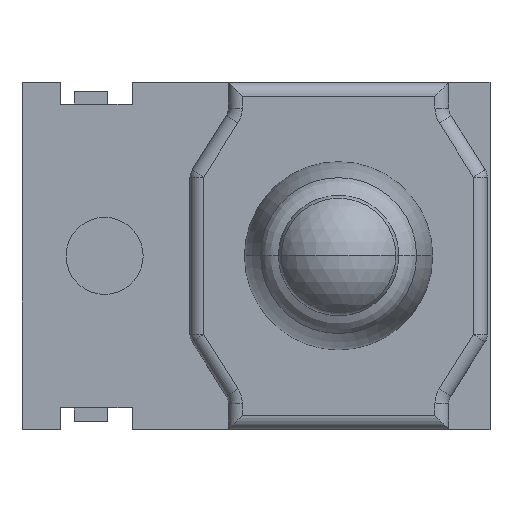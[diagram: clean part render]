
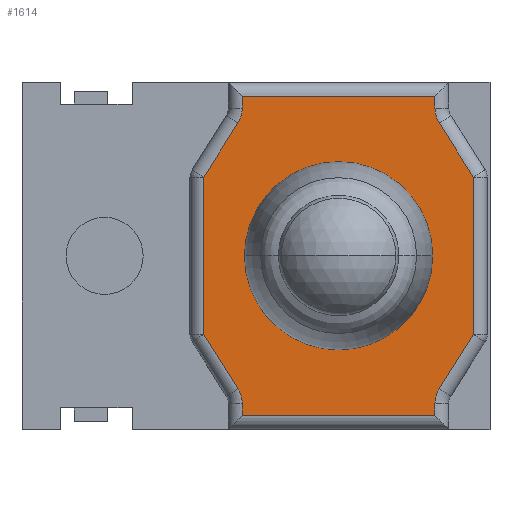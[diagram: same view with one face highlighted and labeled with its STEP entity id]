
A CAD part, top view. The second image highlights one B-rep face of the part: STEP entity #1614.
In plain terms, the highlighted planar face has unit normal (0, 0, 1).
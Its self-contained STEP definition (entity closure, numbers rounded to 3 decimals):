
#51 = EDGE_CURVE ( 'NONE', #718, #4419, #1663, .T. ) ;
#122 = DIRECTION ( 'NONE',  ( 0., 0., 1. ) ) ;
#201 = CARTESIAN_POINT ( 'NONE',  ( -1.75, -2.9, 7.91 ) ) ;
#272 = AXIS2_PLACEMENT_3D ( 'NONE', #3316, #3812, #508 ) ;
#506 = VERTEX_POINT ( 'NONE', #1890 ) ;
#508 = DIRECTION ( 'NONE',  ( 1., 0., 0. ) ) ;
#541 = ORIENTED_EDGE ( 'NONE', *, *, #2234, .T. ) ;
#546 = LINE ( 'NONE', #2814, #2394 ) ;
#548 = EDGE_CURVE ( 'NONE', #5036, #2268, #1927, .T. ) ;
#588 = VERTEX_POINT ( 'NONE', #201 ) ;
#651 = VERTEX_POINT ( 'NONE', #1411 ) ;
#682 = EDGE_CURVE ( 'NONE', #506, #5435, #5939, .T. ) ;
#718 = VERTEX_POINT ( 'NONE', #4206 ) ;
#815 = CARTESIAN_POINT ( 'NONE',  ( 1.75, 2.682, 7.91 ) ) ;
#850 = DIRECTION ( 'NONE',  ( 0., -1., 0. ) ) ;
#864 = DIRECTION ( 'NONE',  ( 0., 1., 0. ) ) ;
#1058 = VECTOR ( 'NONE', #5889, 1000. ) ;
#1125 = VECTOR ( 'NONE', #850, 1000. ) ;
#1161 = ORIENTED_EDGE ( 'NONE', *, *, #4371, .T. ) ;
#1174 = DIRECTION ( 'NONE',  ( 1., 0., 0. ) ) ;
#1193 = VERTEX_POINT ( 'NONE', #3698 ) ;
#1238 = CARTESIAN_POINT ( 'NONE',  ( 2.25, -2.682, 7.91 ) ) ;
#1288 = CARTESIAN_POINT ( 'NONE',  ( 2.45, 1.428, 7.91 ) ) ;
#1358 = CARTESIAN_POINT ( 'NONE',  ( 2.45, 1.428, 7.91 ) ) ;
#1384 = CARTESIAN_POINT ( 'NONE',  ( -1.75, 2.682, 7.91 ) ) ;
#1388 = VERTEX_POINT ( 'NONE', #1288 ) ;
#1411 = CARTESIAN_POINT ( 'NONE',  ( 1.71, 0., 7.91 ) ) ;
#1412 = ORIENTED_EDGE ( 'NONE', *, *, #2430, .T. ) ;
#1423 = VECTOR ( 'NONE', #2018, 1000. ) ;
#1464 = ORIENTED_EDGE ( 'NONE', *, *, #5851, .F. ) ;
#1486 = DIRECTION ( 'NONE',  ( 0.533, 0.846, 0. ) ) ;
#1535 = VERTEX_POINT ( 'NONE', #3276 ) ;
#1542 = FACE_OUTER_BOUND ( 'NONE', #4058, .T. ) ;
#1546 = CARTESIAN_POINT ( 'NONE',  ( 2.45, -1.428, 7.91 ) ) ;
#1614 = ADVANCED_FACE ( 'NONE', ( #1542, #1882 ), #5654, .T. ) ;
#1663 = LINE ( 'NONE', #3117, #4346 ) ;
#1667 = EDGE_CURVE ( 'NONE', #4639, #651, #5572, .T. ) ;
#1882 = FACE_BOUND ( 'NONE', #3194, .T. ) ;
#1890 = CARTESIAN_POINT ( 'NONE',  ( 1.75, 2.682, 7.91 ) ) ;
#1927 = CIRCLE ( 'NONE', #3183, 0.5 ) ;
#1972 = DIRECTION ( 'NONE',  ( 1., 0., 0. ) ) ;
#2015 = ORIENTED_EDGE ( 'NONE', *, *, #3742, .F. ) ;
#2018 = DIRECTION ( 'NONE',  ( 0.533, -0.846, 0. ) ) ;
#2026 = ORIENTED_EDGE ( 'NONE', *, *, #3349, .T. ) ;
#2027 = CARTESIAN_POINT ( 'NONE',  ( 0., 0., 7.91 ) ) ;
#2103 = CIRCLE ( 'NONE', #272, 1.71 ) ;
#2176 = EDGE_CURVE ( 'NONE', #651, #4639, #2103, .T. ) ;
#2234 = EDGE_CURVE ( 'NONE', #588, #5429, #3683, .T. ) ;
#2268 = VERTEX_POINT ( 'NONE', #1384 ) ;
#2321 = ORIENTED_EDGE ( 'NONE', *, *, #51, .T. ) ;
#2344 = ORIENTED_EDGE ( 'NONE', *, *, #2679, .T. ) ;
#2394 = VECTOR ( 'NONE', #4214, 1000. ) ;
#2403 = EDGE_CURVE ( 'NONE', #3765, #1535, #5721, .T. ) ;
#2423 = DIRECTION ( 'NONE',  ( 0., 0., 1. ) ) ;
#2430 = EDGE_CURVE ( 'NONE', #1535, #4636, #4922, .T. ) ;
#2453 = DIRECTION ( 'NONE',  ( 0., 1., 0. ) ) ;
#2496 = ORIENTED_EDGE ( 'NONE', *, *, #2557, .F. ) ;
#2557 = EDGE_CURVE ( 'NONE', #5384, #4060, #5656, .T. ) ;
#2578 = CARTESIAN_POINT ( 'NONE',  ( -2.45, 1.428, 7.91 ) ) ;
#2606 = CARTESIAN_POINT ( 'NONE',  ( -1.827, 2.416, 7.91 ) ) ;
#2679 = EDGE_CURVE ( 'NONE', #1193, #718, #4924, .T. ) ;
#2696 = ORIENTED_EDGE ( 'NONE', *, *, #3115, .F. ) ;
#2725 = VECTOR ( 'NONE', #2453, 1000. ) ;
#2738 = LINE ( 'NONE', #815, #1125 ) ;
#2745 = ORIENTED_EDGE ( 'NONE', *, *, #548, .F. ) ;
#2793 = CARTESIAN_POINT ( 'NONE',  ( -2.25, -2.682, 7.91 ) ) ;
#2805 = DIRECTION ( 'NONE',  ( 1., 0., 0. ) ) ;
#2814 = CARTESIAN_POINT ( 'NONE',  ( -2.45, -1.428, 7.91 ) ) ;
#2843 = AXIS2_PLACEMENT_3D ( 'NONE', #5587, #2423, #4281 ) ;
#2868 = LINE ( 'NONE', #1358, #3424 ) ;
#2889 = DIRECTION ( 'NONE',  ( 1., 0., 0. ) ) ;
#2902 = EDGE_CURVE ( 'NONE', #4060, #506, #2738, .T. ) ;
#2910 = CARTESIAN_POINT ( 'NONE',  ( -2.25, 2.682, 7.91 ) ) ;
#3115 = EDGE_CURVE ( 'NONE', #5435, #1388, #2868, .T. ) ;
#3117 = CARTESIAN_POINT ( 'NONE',  ( 2.45, -1.428, 7.91 ) ) ;
#3170 = CARTESIAN_POINT ( 'NONE',  ( 2.45, 0., 7.91 ) ) ;
#3183 = AXIS2_PLACEMENT_3D ( 'NONE', #2910, #3376, #3838 ) ;
#3194 = EDGE_LOOP ( 'NONE', ( #4482, #4516 ) ) ;
#3204 = DIRECTION ( 'NONE',  ( 0.533, -0.846, 0. ) ) ;
#3276 = CARTESIAN_POINT ( 'NONE',  ( -1.827, -2.416, 7.91 ) ) ;
#3316 = CARTESIAN_POINT ( 'NONE',  ( 0., 0., 7.91 ) ) ;
#3349 = EDGE_CURVE ( 'NONE', #4419, #1388, #5458, .T. ) ;
#3350 = CARTESIAN_POINT ( 'NONE',  ( 2.45, -2.9, 7.91 ) ) ;
#3376 = DIRECTION ( 'NONE',  ( 0., 0., 1. ) ) ;
#3424 = VECTOR ( 'NONE', #3204, 1000. ) ;
#3443 = VECTOR ( 'NONE', #3525, 1000. ) ;
#3482 = DIRECTION ( 'NONE',  ( 0., 0., -1. ) ) ;
#3525 = DIRECTION ( 'NONE',  ( 0., 1., 0. ) ) ;
#3554 = AXIS2_PLACEMENT_3D ( 'NONE', #1238, #3482, #4895 ) ;
#3643 = DIRECTION ( 'NONE',  ( 0., 0., -1. ) ) ;
#3674 = CARTESIAN_POINT ( 'NONE',  ( -1.75, -3.15, 7.91 ) ) ;
#3683 = LINE ( 'NONE', #3350, #5595 ) ;
#3698 = CARTESIAN_POINT ( 'NONE',  ( 1.75, -2.682, 7.91 ) ) ;
#3727 = CARTESIAN_POINT ( 'NONE',  ( 1.75, 2.9, 7.91 ) ) ;
#3736 = CARTESIAN_POINT ( 'NONE',  ( 1.75, -2.9, 7.91 ) ) ;
#3742 = EDGE_CURVE ( 'NONE', #4352, #5036, #4191, .T. ) ;
#3743 = AXIS2_PLACEMENT_3D ( 'NONE', #2793, #3643, #5083 ) ;
#3765 = VERTEX_POINT ( 'NONE', #4312 ) ;
#3812 = DIRECTION ( 'NONE',  ( 0., 0., 1. ) ) ;
#3819 = VECTOR ( 'NONE', #864, 1000. ) ;
#3838 = DIRECTION ( 'NONE',  ( 1., 0., 0. ) ) ;
#4036 = EDGE_CURVE ( 'NONE', #4352, #3765, #546, .T. ) ;
#4058 = EDGE_LOOP ( 'NONE', ( #2015, #4488, #4974, #1412, #4784, #541, #1161, #2344, #2321, #2026, #2696, #5094, #4059, #2496, #1464, #2745 ) ) ;
#4059 = ORIENTED_EDGE ( 'NONE', *, *, #2902, .F. ) ;
#4060 = VERTEX_POINT ( 'NONE', #3727 ) ;
#4106 = AXIS2_PLACEMENT_3D ( 'NONE', #4240, #122, #2805 ) ;
#4191 = LINE ( 'NONE', #5113, #4425 ) ;
#4206 = CARTESIAN_POINT ( 'NONE',  ( 1.827, -2.416, 7.91 ) ) ;
#4214 = DIRECTION ( 'NONE',  ( 0., -1., 0. ) ) ;
#4222 = CARTESIAN_POINT ( 'NONE',  ( 2.45, 2.9, 7.91 ) ) ;
#4231 = VECTOR ( 'NONE', #1972, 1000. ) ;
#4240 = CARTESIAN_POINT ( 'NONE',  ( 2.25, 2.682, 7.91 ) ) ;
#4281 = DIRECTION ( 'NONE',  ( 1., 0., 0. ) ) ;
#4307 = AXIS2_PLACEMENT_3D ( 'NONE', #2027, #4365, #1174 ) ;
#4312 = CARTESIAN_POINT ( 'NONE',  ( -2.45, -1.428, 7.91 ) ) ;
#4346 = VECTOR ( 'NONE', #5801, 1000. ) ;
#4352 = VERTEX_POINT ( 'NONE', #2578 ) ;
#4365 = DIRECTION ( 'NONE',  ( 0., 0., 1. ) ) ;
#4371 = EDGE_CURVE ( 'NONE', #5429, #1193, #5767, .T. ) ;
#4419 = VERTEX_POINT ( 'NONE', #1546 ) ;
#4425 = VECTOR ( 'NONE', #1486, 1000. ) ;
#4482 = ORIENTED_EDGE ( 'NONE', *, *, #1667, .F. ) ;
#4488 = ORIENTED_EDGE ( 'NONE', *, *, #4036, .T. ) ;
#4516 = ORIENTED_EDGE ( 'NONE', *, *, #2176, .F. ) ;
#4569 = LINE ( 'NONE', #3674, #1058 ) ;
#4636 = VERTEX_POINT ( 'NONE', #4987 ) ;
#4639 = VERTEX_POINT ( 'NONE', #5381 ) ;
#4773 = CARTESIAN_POINT ( 'NONE',  ( 1.75, -2.682, 7.91 ) ) ;
#4784 = ORIENTED_EDGE ( 'NONE', *, *, #5298, .T. ) ;
#4845 = CARTESIAN_POINT ( 'NONE',  ( -1.75, 3.15, 7.91 ) ) ;
#4895 = DIRECTION ( 'NONE',  ( 1., 0., 0. ) ) ;
#4922 = CIRCLE ( 'NONE', #3743, 0.5 ) ;
#4924 = CIRCLE ( 'NONE', #3554, 0.5 ) ;
#4974 = ORIENTED_EDGE ( 'NONE', *, *, #2403, .T. ) ;
#4987 = CARTESIAN_POINT ( 'NONE',  ( -1.75, -2.682, 7.91 ) ) ;
#5036 = VERTEX_POINT ( 'NONE', #2606 ) ;
#5083 = DIRECTION ( 'NONE',  ( 1., 0., 0. ) ) ;
#5094 = ORIENTED_EDGE ( 'NONE', *, *, #682, .F. ) ;
#5113 = CARTESIAN_POINT ( 'NONE',  ( -1.827, 2.416, 7.91 ) ) ;
#5298 = EDGE_CURVE ( 'NONE', #4636, #588, #4569, .T. ) ;
#5361 = CARTESIAN_POINT ( 'NONE',  ( -1.827, -2.416, 7.91 ) ) ;
#5381 = CARTESIAN_POINT ( 'NONE',  ( -1.71, 0., 7.91 ) ) ;
#5384 = VERTEX_POINT ( 'NONE', #5684 ) ;
#5386 = LINE ( 'NONE', #4845, #3443 ) ;
#5429 = VERTEX_POINT ( 'NONE', #3736 ) ;
#5435 = VERTEX_POINT ( 'NONE', #5565 ) ;
#5458 = LINE ( 'NONE', #3170, #3819 ) ;
#5565 = CARTESIAN_POINT ( 'NONE',  ( 1.827, 2.416, 7.91 ) ) ;
#5572 = CIRCLE ( 'NONE', #4307, 1.71 ) ;
#5587 = CARTESIAN_POINT ( 'NONE',  ( 2.45, -1.428, 7.91 ) ) ;
#5595 = VECTOR ( 'NONE', #2889, 1000. ) ;
#5654 = PLANE ( 'NONE',  #2843 ) ;
#5656 = LINE ( 'NONE', #4222, #4231 ) ;
#5684 = CARTESIAN_POINT ( 'NONE',  ( -1.75, 2.9, 7.91 ) ) ;
#5721 = LINE ( 'NONE', #5361, #1423 ) ;
#5767 = LINE ( 'NONE', #4773, #2725 ) ;
#5801 = DIRECTION ( 'NONE',  ( 0.533, 0.846, 0. ) ) ;
#5851 = EDGE_CURVE ( 'NONE', #2268, #5384, #5386, .T. ) ;
#5889 = DIRECTION ( 'NONE',  ( 0., -1., 0. ) ) ;
#5939 = CIRCLE ( 'NONE', #4106, 0.5 ) ;
